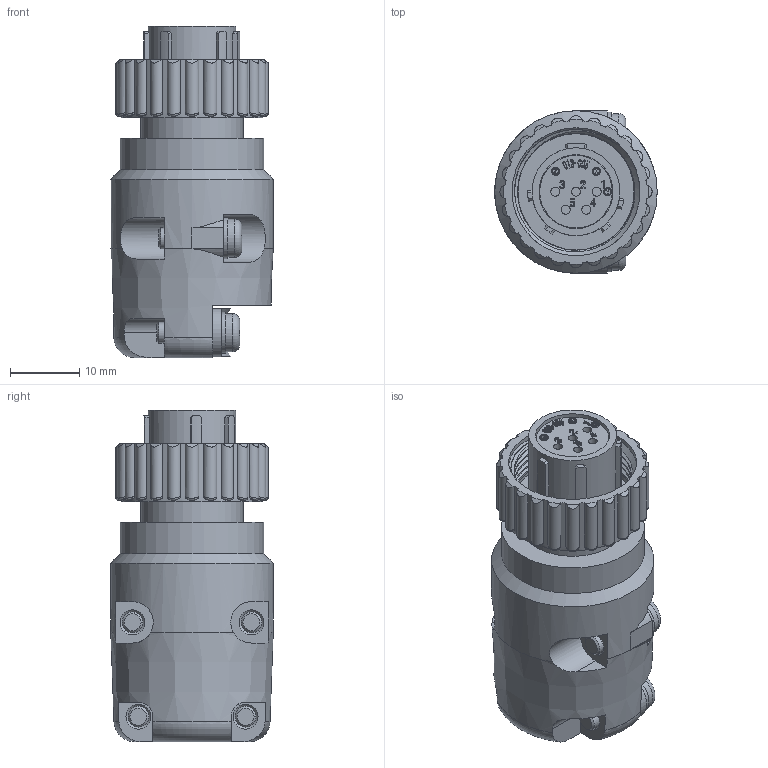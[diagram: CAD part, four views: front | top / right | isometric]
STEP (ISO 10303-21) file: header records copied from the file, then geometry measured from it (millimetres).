
FILE_DESCRIPTION (( 'STEP AP203' ), '1' );
FILE_NAME ('JMSP1305FM-D.STEP', '2021-07-05T04:51:43', ( '' ), ( '' ), 'SwSTEP 2.0', 'SolidWorks 2018', '' );
FILE_SCHEMA (( 'CONFIG_CONTROL_DESIGN' ));
Length unit declared in the file: millimetre
Products named in the file (1): JMSP1305FM-D
Bounding box: 23.5 x 23.5 x 47.9 mm (x, y, z)
Volume: 10612.6 mm3; surface area: 9128.8 mm2
Topology: 1 solids, 1 shells, 933 faces, 2557 edges, 1683 vertices
Faces by surface type: plane 415, bspline 259, cylinder 186, cone 49, torus 24
Full cylindrical faces by diameter (mm): 0.9 x3, 1.1 x5, 1.2 x3, 1.3 x5, 1.55 x5, 3 x4, 5.5 x4, 10.3 x1, 10.5 x1, 10.7 x1, 12 x1, 12.7 x1, 14.7 x1, 14.8 x1, 16.8 x1, 18.1 x1, 18.5 x1, 20.5 x1, 20.7 x1, 23.5 x1
Entity records: 44011 total; most frequent: CARTESIAN_POINT 22670, ORIENTED_EDGE 4928, DIRECTION 3480, EDGE_CURVE 2464, VERTEX_POINT 1656, LINE 1204, VECTOR 1204, AXIS2_PLACEMENT_3D 1138
